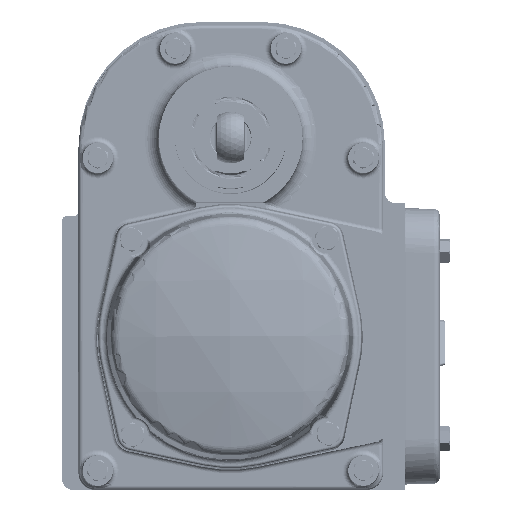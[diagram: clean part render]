
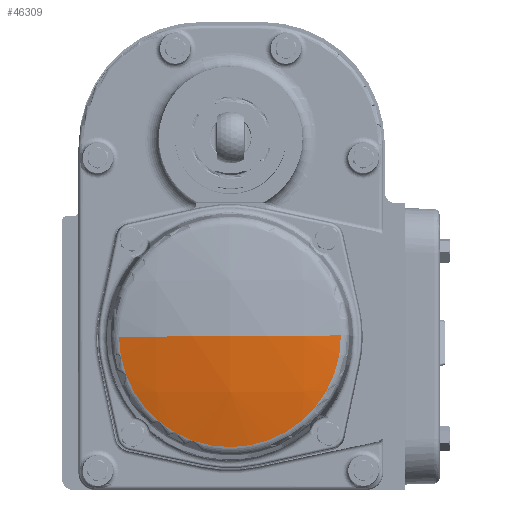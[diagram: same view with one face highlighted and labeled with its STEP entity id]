
A CAD part, top view. The second image highlights one B-rep face of the part: STEP entity #46309.
In plain terms, the highlighted spherical face has radius 279.4 mm.
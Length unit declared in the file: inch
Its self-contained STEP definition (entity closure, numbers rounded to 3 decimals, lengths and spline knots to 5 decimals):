
#8926 = EDGE_LOOP ( 'NONE', ( #84052, #84053, #84054 ) ) ;
#26778 = CIRCLE ( 'NONE', #34090, 2.50549 ) ;
#26783 = CIRCLE ( 'NONE', #34092, 11. ) ;
#26788 = CIRCLE ( 'NONE', #34094, 11. ) ;
#27691 = EDGE_CURVE ( 'NONE', #58700, #58702, #26778, .T. ) ;
#27694 = EDGE_CURVE ( 'NONE', #58702, #58703, #26783, .T. ) ;
#27697 = EDGE_CURVE ( 'NONE', #58700, #58703, #26788, .T. ) ;
#34090 = AXIS2_PLACEMENT_3D ( 'NONE', #81706, #81707, #81708 ) ;
#34092 = AXIS2_PLACEMENT_3D ( 'NONE', #81709, #81710, #81711 ) ;
#34094 = AXIS2_PLACEMENT_3D ( 'NONE', #81712, #81713, #81714 ) ;
#46309 = ADVANCED_FACE ( 'NONE', ( #106849 ), #106851, .T. ) ;
#58700 = VERTEX_POINT ( 'NONE', #104101 ) ;
#58702 = VERTEX_POINT ( 'NONE', #104108 ) ;
#58703 = VERTEX_POINT ( 'NONE', #104110 ) ;
#66111 = CARTESIAN_POINT ( 'NONE',  ( 0.73401, -1.05759, 2.72725 ) ) ;
#66114 = DIRECTION ( 'NONE',  ( 0.006, -1., 0. ) ) ;
#66117 = DIRECTION ( 'NONE',  ( -1., -0.006, 0. ) ) ;
#81706 = CARTESIAN_POINT ( 'NONE',  ( 0.73401, -1.05759, 13.43811 ) ) ;
#81707 = DIRECTION ( 'NONE',  ( 0., 0., 1. ) ) ;
#81708 = DIRECTION ( 'NONE',  ( -1., -0.006, 0. ) ) ;
#81709 = CARTESIAN_POINT ( 'NONE',  ( 0.73401, -1.05759, 2.72725 ) ) ;
#81710 = DIRECTION ( 'NONE',  ( 0.006, -1., 0. ) ) ;
#81711 = DIRECTION ( 'NONE',  ( 1., 0.006, 0. ) ) ;
#81712 = CARTESIAN_POINT ( 'NONE',  ( 0.73401, -1.05759, 2.72725 ) ) ;
#81713 = DIRECTION ( 'NONE',  ( -0.006, 1., 0. ) ) ;
#81714 = DIRECTION ( 'NONE',  ( -1., -0.006, 0. ) ) ;
#84052 = ORIENTED_EDGE ( 'NONE', *, *, #27691, .T. ) ;
#84053 = ORIENTED_EDGE ( 'NONE', *, *, #27694, .T. ) ;
#84054 = ORIENTED_EDGE ( 'NONE', *, *, #27697, .F. ) ;
#104101 = CARTESIAN_POINT ( 'NONE',  ( -1.77143, -1.07309, 13.43811 ) ) ;
#104108 = CARTESIAN_POINT ( 'NONE',  ( 3.23945, -1.04209, 13.43811 ) ) ;
#104110 = CARTESIAN_POINT ( 'NONE',  ( 0.73401, -1.05759, 13.72725 ) ) ;
#106849 = FACE_OUTER_BOUND ( 'NONE', #8926, .T. ) ;
#106851 = SPHERICAL_SURFACE ( 'NONE', #110039, 11. ) ;
#110039 = AXIS2_PLACEMENT_3D ( 'NONE', #66111, #66114, #66117 ) ;
